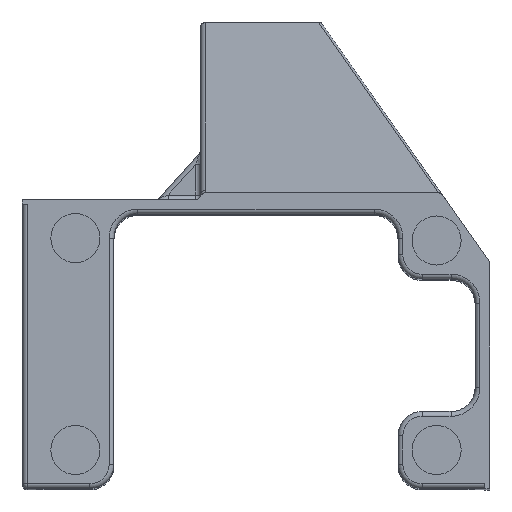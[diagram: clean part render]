
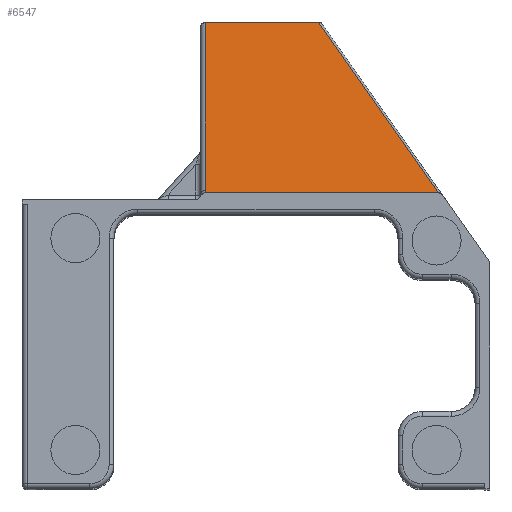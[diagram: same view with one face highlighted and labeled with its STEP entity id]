
A CAD part, top view. The second image highlights one B-rep face of the part: STEP entity #6547.
In plain terms, the highlighted planar face has unit normal (0, 0.908, 0.42).
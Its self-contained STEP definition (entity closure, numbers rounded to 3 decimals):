
#571 = EDGE_LOOP ( 'NONE', ( #5087, #2634, #6091, #8379, #7468 ) ) ;
#683 = CARTESIAN_POINT ( 'NONE',  ( 41., 61.908, -4.125 ) ) ;
#1255 = CARTESIAN_POINT ( 'NONE',  ( 64.469, 96.908, -79.8 ) ) ;
#1347 = VECTOR ( 'NONE', #8119, 1000. ) ;
#1408 = VERTEX_POINT ( 'NONE', #3013 ) ;
#1463 = DIRECTION ( 'NONE',  ( 0., -0.908, -0.42 ) ) ;
#1579 = CARTESIAN_POINT ( 'NONE',  ( 40.931, 61.387, -3. ) ) ;
#1711 = CARTESIAN_POINT ( 'NONE',  ( 64.451, 96.934, -79.856 ) ) ;
#2253 = LINE ( 'NONE', #4932, #1347 ) ;
#2482 = DIRECTION ( 'NONE',  ( -1., 0., 0. ) ) ;
#2634 = ORIENTED_EDGE ( 'NONE', *, *, #4798, .T. ) ;
#2834 = CARTESIAN_POINT ( 'NONE',  ( 41., 61.908, -4.125 ) ) ;
#3013 = CARTESIAN_POINT ( 'NONE',  ( 89.341, 61.387, -3. ) ) ;
#3173 = VECTOR ( 'NONE', #7288, 1000. ) ;
#3581 = VECTOR ( 'NONE', #2482, 1000. ) ;
#3650 = VERTEX_POINT ( 'NONE', #1255 ) ;
#4020 = DIRECTION ( 'NONE',  ( 0., 0.42, -0.908 ) ) ;
#4153 = AXIS2_PLACEMENT_3D ( 'NONE', #7474, #1463, #4020 ) ;
#4798 = EDGE_CURVE ( 'NONE', #5184, #6604, #2253, .T. ) ;
#4895 =( BOUNDED_CURVE ( )  B_SPLINE_CURVE ( 3, ( #2834, #5513, #5318, #7989 ),
 .UNSPECIFIED., .F., .F. ) 
 B_SPLINE_CURVE_WITH_KNOTS ( ( 4, 4 ),
 ( 1.571, 1.834 ),
 .UNSPECIFIED. ) 
 CURVE ( )  GEOMETRIC_REPRESENTATION_ITEM ( )  RATIONAL_B_SPLINE_CURVE ( ( 1., 0.994, 0.994, 1. ) ) 
 REPRESENTATION_ITEM ( '' )  );
#4932 = CARTESIAN_POINT ( 'NONE',  ( 41., 61.387, -3. ) ) ;
#5087 = ORIENTED_EDGE ( 'NONE', *, *, #7835, .T. ) ;
#5184 = VERTEX_POINT ( 'NONE', #5448 ) ;
#5318 = CARTESIAN_POINT ( 'NONE',  ( 40.977, 61.557, -3.367 ) ) ;
#5448 = CARTESIAN_POINT ( 'NONE',  ( 41., 96.908, -79.8 ) ) ;
#5513 = CARTESIAN_POINT ( 'NONE',  ( 41., 61.732, -3.744 ) ) ;
#5565 = VERTEX_POINT ( 'NONE', #1579 ) ;
#5820 = VECTOR ( 'NONE', #7858, 1000. ) ;
#6091 = ORIENTED_EDGE ( 'NONE', *, *, #7553, .T. ) ;
#6406 = LINE ( 'NONE', #1711, #5820 ) ;
#6547 = ADVANCED_FACE ( 'NONE', ( #8058 ), #7975, .F. ) ;
#6604 = VERTEX_POINT ( 'NONE', #683 ) ;
#7156 = LINE ( 'NONE', #7913, #3173 ) ;
#7288 = DIRECTION ( 'NONE',  ( 1., 0., 0. ) ) ;
#7296 = CARTESIAN_POINT ( 'NONE',  ( 40., 96.908, -79.8 ) ) ;
#7384 = EDGE_CURVE ( 'NONE', #1408, #3650, #6406, .T. ) ;
#7468 = ORIENTED_EDGE ( 'NONE', *, *, #7384, .T. ) ;
#7474 = CARTESIAN_POINT ( 'NONE',  ( -39., 60., 0. ) ) ;
#7553 = EDGE_CURVE ( 'NONE', #6604, #5565, #4895, .T. ) ;
#7835 = EDGE_CURVE ( 'NONE', #3650, #5184, #7972, .T. ) ;
#7858 = DIRECTION ( 'NONE',  ( -0.282, 0.403, -0.871 ) ) ;
#7913 = CARTESIAN_POINT ( 'NONE',  ( -39., 61.387, -3. ) ) ;
#7972 = LINE ( 'NONE', #7296, #3581 ) ;
#7975 = PLANE ( 'NONE',  #4153 ) ;
#7989 = CARTESIAN_POINT ( 'NONE',  ( 40.931, 61.387, -3. ) ) ;
#8058 = FACE_OUTER_BOUND ( 'NONE', #571, .T. ) ;
#8119 = DIRECTION ( 'NONE',  ( 0., -0.42, 0.908 ) ) ;
#8147 = EDGE_CURVE ( 'NONE', #5565, #1408, #7156, .T. ) ;
#8379 = ORIENTED_EDGE ( 'NONE', *, *, #8147, .T. ) ;
